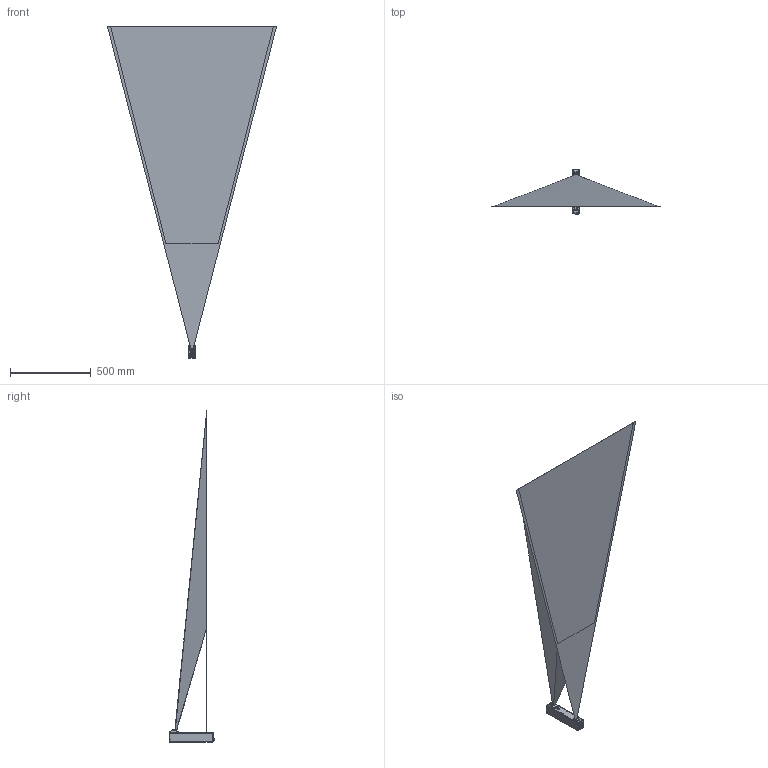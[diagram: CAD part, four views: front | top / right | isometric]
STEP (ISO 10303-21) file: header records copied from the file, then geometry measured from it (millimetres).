
FILE_DESCRIPTION (( 'STEP AP214' ), '1' );
FILE_NAME ('25031.01.01_CAD_Gocator_2175_312175X-X-R-01-T_2375_312375X-X-R-01-T.STEP', '2019-02-22T21:46:15', ( '' ), ( '' ), 'SwSTEP 2.0', 'SolidWorks 2018', '' );
FILE_SCHEMA (( 'AUTOMOTIVE_DESIGN' ));
Length unit declared in the file: millimetre
Products named in the file (1): 25031.01.01_CAD_Gocator_2175_312175X-X-R-01-T_2375_312375X-X-R-01-T
Bounding box: 1050 x 282.7 x 2061.5 mm (x, y, z)
Surface area: 4357384.3 mm2 (no closed solid volume)
Topology: 0 solids, 4 shells, 1316 faces, 3388 edges, 2172 vertices
Faces by surface type: plane 705, bspline 278, cylinder 239, cone 58, sphere 34, torus 2
Entity records: 64472 total; most frequent: CARTESIAN_POINT 19857, ORIENTED_EDGE 6632, DIRECTION 5368, EDGE_CURVE 3320, VERTEX_POINT 2158, VECTOR 2146, LINE 2146, AXIS2_PLACEMENT_3D 1611
